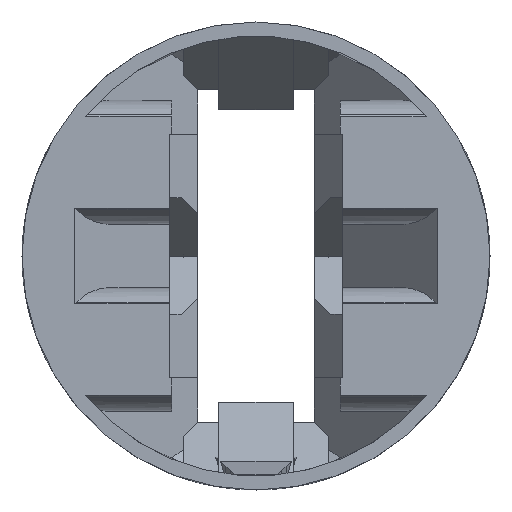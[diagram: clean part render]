
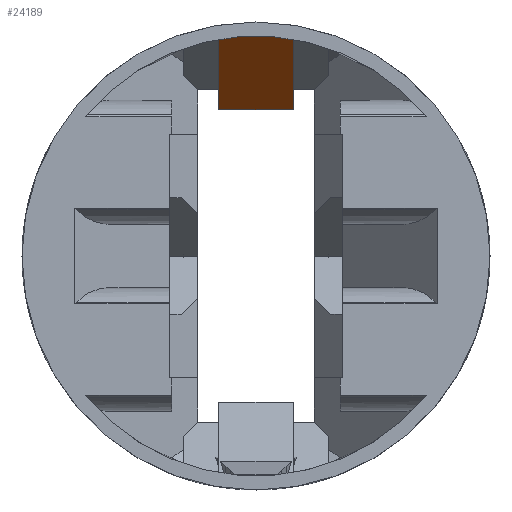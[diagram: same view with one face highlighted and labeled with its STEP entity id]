
A CAD part, left-side view. The second image highlights one B-rep face of the part: STEP entity #24189.
In plain terms, the highlighted planar face has unit normal (-0.643, 0, -0.766).
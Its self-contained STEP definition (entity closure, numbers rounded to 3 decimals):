
#6662 = PLANE('',#6663);
#6663 = AXIS2_PLACEMENT_3D('',#6664,#6665,#6666);
#6664 = CARTESIAN_POINT('',(40.188,3.2,17.39));
#6665 = DIRECTION('',(0.,1.,0.));
#6666 = DIRECTION('',(0.,-0.,1.));
#6690 = PLANE('',#6691);
#6691 = AXIS2_PLACEMENT_3D('',#6692,#6693,#6694);
#6692 = CARTESIAN_POINT('',(43.79,-3.2,12.5));
#6693 = DIRECTION('',(0.,0.,1.));
#6694 = DIRECTION('',(-1.,0.,0.));
#6716 = PLANE('',#6717);
#6717 = AXIS2_PLACEMENT_3D('',#6718,#6719,#6720);
#6718 = CARTESIAN_POINT('',(40.188,-3.2,17.39));
#6719 = DIRECTION('',(0.,1.,0.));
#6720 = DIRECTION('',(0.,-0.,1.));
#6756 = VERTEX_POINT('',#6757);
#6757 = CARTESIAN_POINT('',(43.14,-3.2,12.5));
#6778 = EDGE_CURVE('',#6756,#6779,#6781,.T.);
#6779 = VERTEX_POINT('',#6780);
#6780 = CARTESIAN_POINT('',(35.959,-3.2,18.526));
#6781 = SURFACE_CURVE('',#6782,(#6786,#6793),.PCURVE_S1.);
#6782 = LINE('',#6783,#6784);
#6783 = CARTESIAN_POINT('',(43.14,-3.2,12.5));
#6784 = VECTOR('',#6785,1.);
#6785 = DIRECTION('',(-0.766,0.,0.643));
#6786 = PCURVE('',#6716,#6787);
#6787 = DEFINITIONAL_REPRESENTATION('',(#6788),#6792);
#6788 = LINE('',#6789,#6790);
#6789 = CARTESIAN_POINT('',(-4.89,2.952));
#6790 = VECTOR('',#6791,1.);
#6791 = DIRECTION('',(0.643,-0.766));
#6792 = ( GEOMETRIC_REPRESENTATION_CONTEXT(2) 
PARAMETRIC_REPRESENTATION_CONTEXT() REPRESENTATION_CONTEXT('2D SPACE',''
  ) );
#6793 = PCURVE('',#6794,#6799);
#6794 = PLANE('',#6795);
#6795 = AXIS2_PLACEMENT_3D('',#6796,#6797,#6798);
#6796 = CARTESIAN_POINT('',(43.14,-3.2,12.5));
#6797 = DIRECTION('',(0.643,0.,0.766));
#6798 = DIRECTION('',(-0.766,0.,0.643));
#6799 = DEFINITIONAL_REPRESENTATION('',(#6800),#6804);
#6800 = LINE('',#6801,#6802);
#6801 = CARTESIAN_POINT('',(0.,0.));
#6802 = VECTOR('',#6803,1.);
#6803 = DIRECTION('',(1.,0.));
#6804 = ( GEOMETRIC_REPRESENTATION_CONTEXT(2) 
PARAMETRIC_REPRESENTATION_CONTEXT() REPRESENTATION_CONTEXT('2D SPACE',''
  ) );
#6821 = CYLINDRICAL_SURFACE('',#6822,18.8);
#6822 = AXIS2_PLACEMENT_3D('',#6823,#6824,#6825);
#6823 = CARTESIAN_POINT('',(29.,0.,0.));
#6824 = DIRECTION('',(1.,0.,0.));
#6825 = DIRECTION('',(-0.,0.,1.));
#7439 = EDGE_CURVE('',#7440,#6779,#7442,.T.);
#7440 = VERTEX_POINT('',#7441);
#7441 = CARTESIAN_POINT('',(35.632,0.,18.8));
#7442 = SURFACE_CURVE('',#7443,(#7448,#7458),.PCURVE_S1.);
#7443 = ELLIPSE('',#7444,29.248,18.8);
#7444 = AXIS2_PLACEMENT_3D('',#7445,#7446,#7447);
#7445 = CARTESIAN_POINT('',(58.037,0.,0.));
#7446 = DIRECTION('',(0.643,0.,0.766));
#7447 = DIRECTION('',(0.766,0.,-0.643));
#7448 = PCURVE('',#6821,#7449);
#7449 = DEFINITIONAL_REPRESENTATION('',(#7450),#7457);
#7450 = B_SPLINE_CURVE_WITH_KNOTS('',5,(#7451,#7452,#7453,#7454,#7455,
    #7456),.UNSPECIFIED.,.F.,.F.,(6,6),(3.142,3.313),
  .PIECEWISE_BEZIER_KNOTS.);
#7451 = CARTESIAN_POINT('',(6.283,6.632));
#7452 = CARTESIAN_POINT('',(6.317,6.632));
#7453 = CARTESIAN_POINT('',(6.352,6.665));
#7454 = CARTESIAN_POINT('',(6.386,6.73));
#7455 = CARTESIAN_POINT('',(6.42,6.828));
#7456 = CARTESIAN_POINT('',(6.454,6.959));
#7457 = ( GEOMETRIC_REPRESENTATION_CONTEXT(2) 
PARAMETRIC_REPRESENTATION_CONTEXT() REPRESENTATION_CONTEXT('2D SPACE',''
  ) );
#7458 = PCURVE('',#6794,#7459);
#7459 = DEFINITIONAL_REPRESENTATION('',(#7460),#7464);
#7460 = ELLIPSE('',#7461,29.248,18.8);
#7461 = AXIS2_PLACEMENT_2D('',#7462,#7463);
#7462 = CARTESIAN_POINT('',(-19.447,-3.2));
#7463 = DIRECTION('',(-1.,0.));
#7464 = ( GEOMETRIC_REPRESENTATION_CONTEXT(2) 
PARAMETRIC_REPRESENTATION_CONTEXT() REPRESENTATION_CONTEXT('2D SPACE',''
  ) );
#7466 = EDGE_CURVE('',#7467,#7440,#7469,.T.);
#7467 = VERTEX_POINT('',#7468);
#7468 = CARTESIAN_POINT('',(35.959,3.2,18.526));
#7469 = SURFACE_CURVE('',#7470,(#7475,#7485),.PCURVE_S1.);
#7470 = ELLIPSE('',#7471,29.248,18.8);
#7471 = AXIS2_PLACEMENT_3D('',#7472,#7473,#7474);
#7472 = CARTESIAN_POINT('',(58.037,0.,0.));
#7473 = DIRECTION('',(0.643,0.,0.766));
#7474 = DIRECTION('',(0.766,0.,-0.643));
#7475 = PCURVE('',#6821,#7476);
#7476 = DEFINITIONAL_REPRESENTATION('',(#7477),#7484);
#7477 = B_SPLINE_CURVE_WITH_KNOTS('',5,(#7478,#7479,#7480,#7481,#7482,
    #7483),.UNSPECIFIED.,.F.,.F.,(6,6),(2.971,3.142),
  .PIECEWISE_BEZIER_KNOTS.);
#7478 = CARTESIAN_POINT('',(6.112,6.959));
#7479 = CARTESIAN_POINT('',(6.146,6.828));
#7480 = CARTESIAN_POINT('',(6.181,6.73));
#7481 = CARTESIAN_POINT('',(6.215,6.665));
#7482 = CARTESIAN_POINT('',(6.249,6.632));
#7483 = CARTESIAN_POINT('',(6.283,6.632));
#7484 = ( GEOMETRIC_REPRESENTATION_CONTEXT(2) 
PARAMETRIC_REPRESENTATION_CONTEXT() REPRESENTATION_CONTEXT('2D SPACE',''
  ) );
#7485 = PCURVE('',#6794,#7486);
#7486 = DEFINITIONAL_REPRESENTATION('',(#7487),#7491);
#7487 = ELLIPSE('',#7488,29.248,18.8);
#7488 = AXIS2_PLACEMENT_2D('',#7489,#7490);
#7489 = CARTESIAN_POINT('',(-19.447,-3.2));
#7490 = DIRECTION('',(-1.,0.));
#7491 = ( GEOMETRIC_REPRESENTATION_CONTEXT(2) 
PARAMETRIC_REPRESENTATION_CONTEXT() REPRESENTATION_CONTEXT('2D SPACE',''
  ) );
#24189 = ADVANCED_FACE('',(#24190),#6794,.F.);
#24190 = FACE_BOUND('',#24191,.F.);
#24191 = EDGE_LOOP('',(#24192,#24193,#24216,#24237,#24238));
#24192 = ORIENTED_EDGE('',*,*,#6778,.F.);
#24193 = ORIENTED_EDGE('',*,*,#24194,.T.);
#24194 = EDGE_CURVE('',#6756,#24195,#24197,.T.);
#24195 = VERTEX_POINT('',#24196);
#24196 = CARTESIAN_POINT('',(43.14,3.2,12.5));
#24197 = SURFACE_CURVE('',#24198,(#24202,#24209),.PCURVE_S1.);
#24198 = LINE('',#24199,#24200);
#24199 = CARTESIAN_POINT('',(43.14,-3.2,12.5));
#24200 = VECTOR('',#24201,1.);
#24201 = DIRECTION('',(-0.,1.,-0.));
#24202 = PCURVE('',#6794,#24203);
#24203 = DEFINITIONAL_REPRESENTATION('',(#24204),#24208);
#24204 = LINE('',#24205,#24206);
#24205 = CARTESIAN_POINT('',(0.,0.));
#24206 = VECTOR('',#24207,1.);
#24207 = DIRECTION('',(0.,-1.));
#24208 = ( GEOMETRIC_REPRESENTATION_CONTEXT(2) 
PARAMETRIC_REPRESENTATION_CONTEXT() REPRESENTATION_CONTEXT('2D SPACE',''
  ) );
#24209 = PCURVE('',#6690,#24210);
#24210 = DEFINITIONAL_REPRESENTATION('',(#24211),#24215);
#24211 = LINE('',#24212,#24213);
#24212 = CARTESIAN_POINT('',(0.65,0.));
#24213 = VECTOR('',#24214,1.);
#24214 = DIRECTION('',(0.,-1.));
#24215 = ( GEOMETRIC_REPRESENTATION_CONTEXT(2) 
PARAMETRIC_REPRESENTATION_CONTEXT() REPRESENTATION_CONTEXT('2D SPACE',''
  ) );
#24216 = ORIENTED_EDGE('',*,*,#24217,.T.);
#24217 = EDGE_CURVE('',#24195,#7467,#24218,.T.);
#24218 = SURFACE_CURVE('',#24219,(#24223,#24230),.PCURVE_S1.);
#24219 = LINE('',#24220,#24221);
#24220 = CARTESIAN_POINT('',(43.14,3.2,12.5));
#24221 = VECTOR('',#24222,1.);
#24222 = DIRECTION('',(-0.766,0.,0.643));
#24223 = PCURVE('',#6794,#24224);
#24224 = DEFINITIONAL_REPRESENTATION('',(#24225),#24229);
#24225 = LINE('',#24226,#24227);
#24226 = CARTESIAN_POINT('',(0.,-6.4));
#24227 = VECTOR('',#24228,1.);
#24228 = DIRECTION('',(1.,0.));
#24229 = ( GEOMETRIC_REPRESENTATION_CONTEXT(2) 
PARAMETRIC_REPRESENTATION_CONTEXT() REPRESENTATION_CONTEXT('2D SPACE',''
  ) );
#24230 = PCURVE('',#6662,#24231);
#24231 = DEFINITIONAL_REPRESENTATION('',(#24232),#24236);
#24232 = LINE('',#24233,#24234);
#24233 = CARTESIAN_POINT('',(-4.89,2.952));
#24234 = VECTOR('',#24235,1.);
#24235 = DIRECTION('',(0.643,-0.766));
#24236 = ( GEOMETRIC_REPRESENTATION_CONTEXT(2) 
PARAMETRIC_REPRESENTATION_CONTEXT() REPRESENTATION_CONTEXT('2D SPACE',''
  ) );
#24237 = ORIENTED_EDGE('',*,*,#7466,.T.);
#24238 = ORIENTED_EDGE('',*,*,#7439,.T.);
